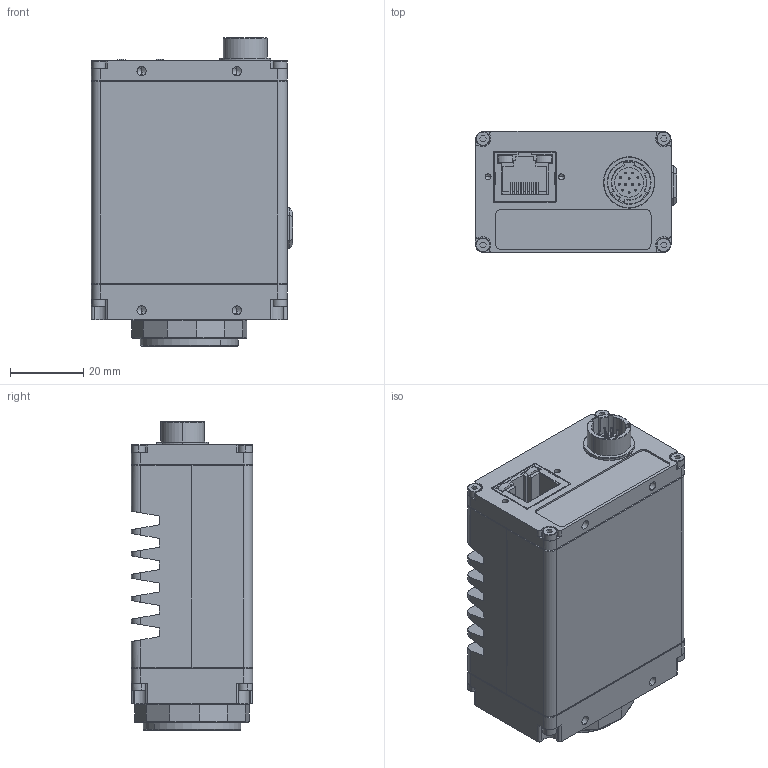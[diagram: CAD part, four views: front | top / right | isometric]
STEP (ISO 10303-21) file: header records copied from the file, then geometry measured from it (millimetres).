
FILE_DESCRIPTION (( 'STEP AP214' ), '1' );
FILE_NAME ('GT1930C.STEP', '2016-03-03T23:59:04', ( '' ), ( '' ), 'SwSTEP 2.0', 'SolidWorks 2015', '' );
FILE_SCHEMA (( 'AUTOMOTIVE_DESIGN' ));
Length unit declared in the file: millimetre
Products named in the file (7): IR FILTER ASSEMBLY; C-MOUNT LOCKING RING; GT1930 C-MOUNT RING; 440002-IR CUT FILTER 22MM DIA; GT BODY ASSY SHORT - defeatured_GT1930C C-MOUNT; GT1930C; 110054B-A IR FILTER SUPPORT
Assembly tree (6 placements, depth 3):
  GT1930C
    GT BODY ASSY SHORT - defeatured_GT1930C C-MOUNT
    GT1930 C-MOUNT RING
    C-MOUNT LOCKING RING
    IR FILTER ASSEMBLY
      110054B-A IR FILTER SUPPORT
      440002-IR CUT FILTER 22MM DIA
Bounding box: 54.84 x 33.02 x 84.05 mm (x, y, z)
Volume: 100893.3 mm3; surface area: 37259.9 mm2
Topology: 5 solids, 17 shells, 1352 faces, 3461 edges, 2145 vertices
Faces by surface type: plane 716, cylinder 347, cone 230, torus 35, sphere 24
Entity records: 49258 total; most frequent: CARTESIAN_POINT 7380, DIRECTION 6939, ORIENTED_EDGE 6738, EDGE_CURVE 3369, LINE 2379, VECTOR 2379, AXIS2_PLACEMENT_3D 2280, VERTEX_POINT 2121
